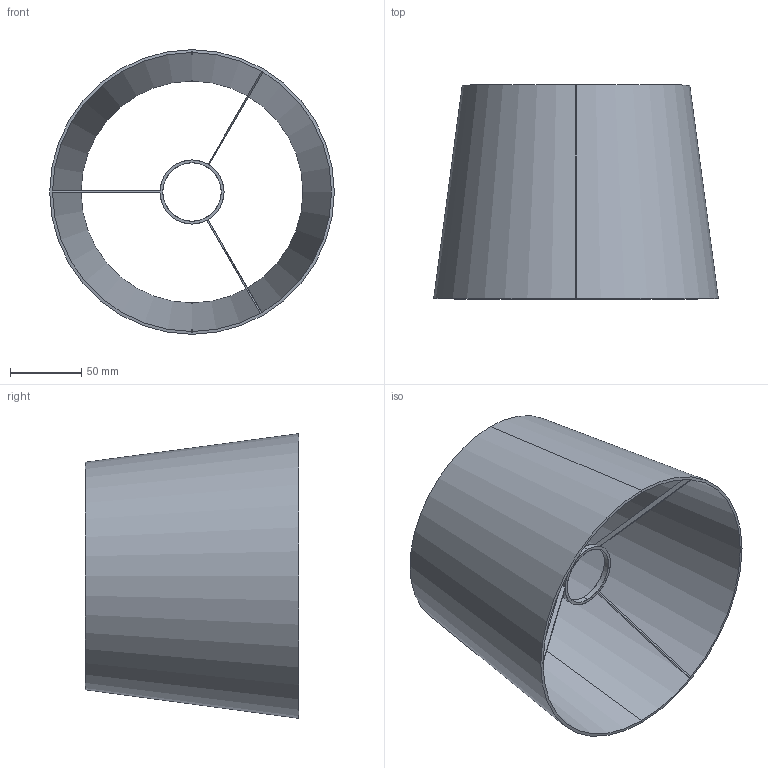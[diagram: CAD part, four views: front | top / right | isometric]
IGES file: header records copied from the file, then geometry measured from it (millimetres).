
Start section: SolidWorks IGES file using analytic representation for surfaces
Global section: file name: C:\Users\a.sempere\Desktop\PANTALLAS\A-PANTALLAS-TELA\5PANT0014B\5PANT0014B.IGS; native system: SolidWorks 2024; preprocessor: SolidWorks 2024; author: a.sempere; date: 250120.122609; units: millimetre
Bounding box: 200 x 150.26 x 200 mm (x, y, z)
Surface area: 175476 mm2 (no closed solid volume)
Topology: 0 solids, 0 shells, 32 faces, 376 edges, 376 vertices
Faces by surface type: bspline 20, revolution 12
